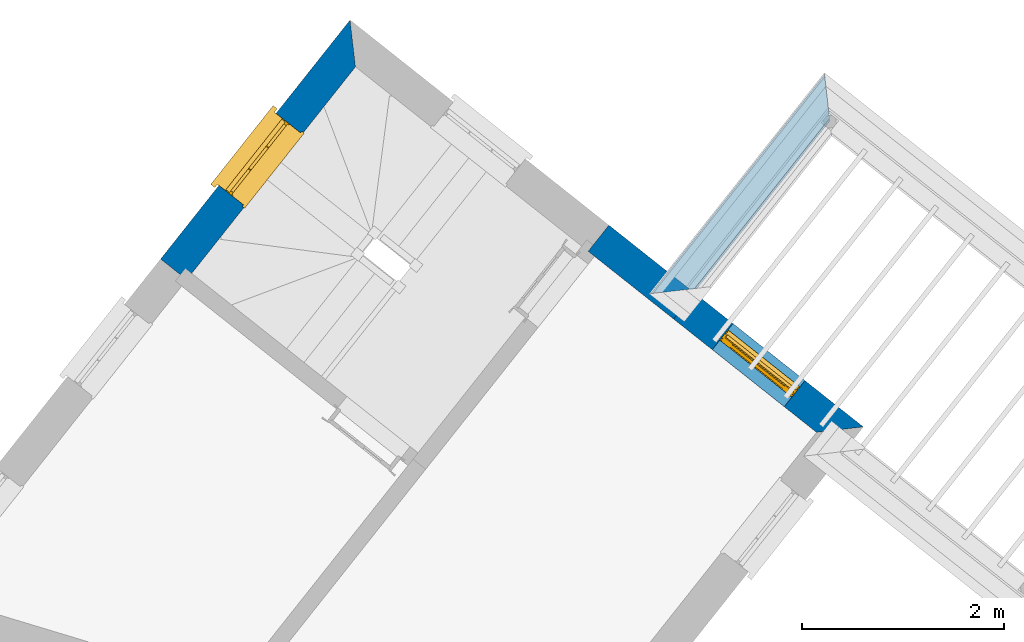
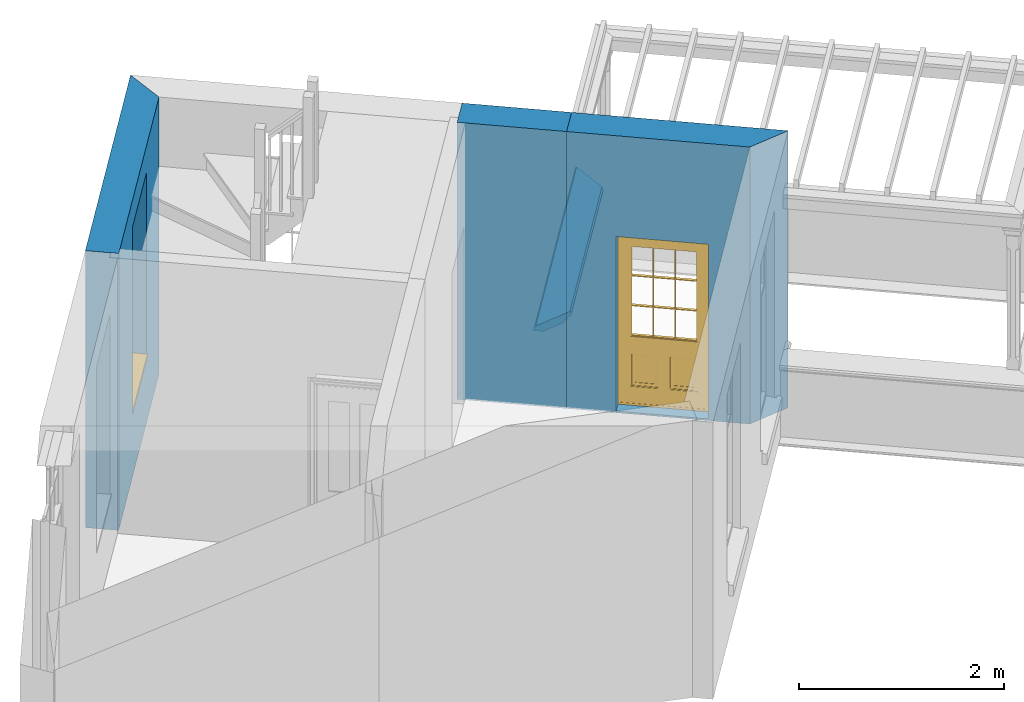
# One storey, part 3 of 6: 4 walls, 1 door, 1 window, 2 openings.
"""IFC4 building model written with IfcOpenShell, lengths in metres."""

from ifc_helpers import new_model, si_unit, frame, origin, origin_with_axes, place, context, subcontext, project, spatial, polyline, outline, extrude, clip, halfspace, faceted_brep, source, transform, mapped, material, layer, layer_set, layer_usage, material_profile, profile_set, profile_usage, type_object, type_shapes, element, fill, save


model = new_model("IFC4")

# Units and contexts
model_context = context("Model", 3, world=origin_with_axes())
body_context = subcontext(model_context, "Body", "Model", "MODEL_VIEW")
ifc_project = project(units=[si_unit("PLANEANGLEUNIT", "RADIAN"), si_unit("MASSUNIT", "GRAM", prefix="KILO"), si_unit("FORCEUNIT", "NEWTON", prefix="KILO"), si_unit("LENGTHUNIT", "METRE"), si_unit("AREAUNIT", "SQUARE_METRE"), si_unit("VOLUMEUNIT", "CUBIC_METRE")], contexts=[model_context, model_context])

# Sites, building, storey
site_1_placement = place(None, origin_with_axes())
site_1 = spatial("IfcSite", under=ifc_project, at=site_1_placement, Name="Tamar")
site_2_placement = place(site_1_placement, origin_with_axes())
site_2 = spatial("IfcSite", under=site_1, at=site_2_placement, Name="Site plot-5", CompositionType="ELEMENT")
building_placement = place(None, origin_with_axes())
building = spatial("IfcBuilding", under=site_2, at=building_placement, Name="Building plot-5", CompositionType="ELEMENT")
storey_placement = place(None, frame((0.0, 0.0, 26.85), z_axis=(0.0, 0.0, 1.0), x_axis=(1.0, 0.0, 0.0)))
storey = spatial("IfcBuildingStorey", under=building, at=storey_placement, Name="plot-5 1", CompositionType="ELEMENT", Elevation=26.85)

# Wall, opening, door
ifc_material = material(Name="Masonry")
ifc_layer = layer(ifc_material, 0.33, ventilated=False)
ifc_layer_set = layer_set([ifc_layer], Name="exterior_0.08_0.25")
ifc_layer_usage = layer_usage(ifc_layer_set, "AXIS2", "POSITIVE", -0.25)
wall_type_1 = type_object("IfcWallType", Name="exterior_0.08_0.25", PredefinedType="SOLIDWALL", material=ifc_layer_set)
wall_1_placement = place(storey_placement, frame((234.208321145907, 273.833509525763, 0.0), z_axis=(0.0, 0.0, 1.0), x_axis=(-0.783658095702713, 0.621192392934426, 0.0)))
wall_1 = element("IfcWall", 1, at=wall_1_placement, inside=storey, type_object=wall_type_1, material=ifc_layer_usage, Name="exterior", context=body_context, shape_type="SweptSolid", body=[
    extrude(outline(polyline([(0.0800000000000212, 0.0800000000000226), (-0.250000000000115, -0.250000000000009), (1.88701475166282, -0.250000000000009), (1.88701475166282, 0.0799999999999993), (0.0800000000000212, 0.0800000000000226)])), origin_with_axes(), (0.0, 0.0, 1.0), 3.3),
])
opening_1_placement = place(wall_1_placement, frame((0.488507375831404, 0.0, 0.0199999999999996)))
opening_1 = element("IfcOpeningElement", 2, at=opening_1_placement, cuts=wall_1, Name="My Opening", ObjectType="Opening", context=body_context, shape_type="SweptSolid", body=[
    extrude(outline(polyline([(0.0, -0.270000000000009), (0.910000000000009, -0.269999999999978), (0.910000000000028, 1.10000000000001), (1.89848137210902e-14, 1.09999999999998), (0.0, -0.270000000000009)])), origin_with_axes(), (0.0, 0.0, 1.0), 2.08),
])
door_type = type_object("IfcDoorType", Name="door_panelled", OperationType="SINGLE_SWING_LEFT", PredefinedType="NOTDEFINED")
shared_shape_1 = source(origin(), body_context, "Body", "Brep", [
    faceted_brep([(0.545, 0.195, 0.265), (0.745, 0.195, 0.265), (0.745, 0.2, 0.265), (0.545, 0.2, 0.265), (0.745, 0.2, 0.58), (0.545, 0.2, 0.58), (0.545, 0.195, 0.58), (0.515, 0.19, 0.235), (0.775, 0.19, 0.235), (0.745, 0.195, 0.58), (0.515, 0.19, 0.61), (0.515, 0.185, 0.235), (0.775, 0.185, 0.235), (0.775, 0.19, 0.61), (0.515, 0.185, 0.61), (0.785, 0.185, 0.225), (0.505, 0.185, 0.225), (0.775, 0.185, 0.61), (0.505, 0.185, 0.62), (0.785, 0.185, 0.62), (0.505, 0.18, 0.225), (0.785, 0.18, 0.225), (0.505, 0.18, 0.62), (0.785, 0.18, 0.62), (0.883, 0.18, 0.075), (0.898, 0.18, 0.075), (0.405, 0.18, 0.62), (0.405, 0.18, 0.225), (0.027, 0.18, 0.075), (0.785, 0.18, 0.82), (0.125, 0.18, 0.82), (0.405, 0.185, 0.62), (0.405, 0.185, 0.225), (0.898, 0.18, 2.068), (0.027, 0.17, 0.075), (0.883, 0.17, 0.075), (0.125, 0.18, 0.225), (0.012, 0.18, 0.075), (0.785, 0.19, 0.82), (0.125, 0.19, 0.82), (0.125, 0.18, 0.62), (0.125, 0.185, 0.62), (0.395, 0.185, 0.61), (0.395, 0.185, 0.235), (0.125, 0.185, 0.225), (0.785, 0.18, 1.895), (0.027, 0.14, 0.045), (0.883, 0.14, 0.045), (0.558333, 0.19, 0.83), (0.351667, 0.19, 0.83), (0.125, 0.18, 1.895), (0.125, 0.19, 1.895), (0.785, 0.19, 1.895), (0.012, 0.18, 2.068), (0.135, 0.185, 0.61), (0.395, 0.19, 0.61), (0.395, 0.19, 0.235), (0.135, 0.185, 0.235), (0.027, 0.14, 0.027), (0.883, 0.14, 0.027), (0.568333, 0.19, 0.83), (0.558333, 0.22, 0.83), (0.351667, 0.22, 0.83), (0.341667, 0.19, 0.83), (0.135, 0.19, 1.185), (0.135, 0.19, 1.53), (0.775, 0.19, 1.53), (0.775, 0.19, 1.185), (0.135, 0.19, 0.61), (0.365, 0.195, 0.58), (0.365, 0.195, 0.265), (0.135, 0.19, 0.235), (0.568333, 0.19, 1.175), (0.558333, 0.19, 1.175), (0.775, 0.19, 0.83), (0.558333, 0.22, 1.175), (0.785, 0.22, 0.82), (0.125, 0.22, 0.82), (0.351667, 0.22, 1.175), (0.351667, 0.19, 1.175), (0.341667, 0.19, 1.175), (0.135, 0.19, 0.83), (0.135, 0.19, 1.175), (0.135, 0.22, 1.185), (0.135, 0.22, 1.53), (0.135, 0.19, 1.54), (0.351667, 0.19, 1.885), (0.558333, 0.19, 1.885), (0.775, 0.22, 1.53), (0.775, 0.22, 1.185), (0.775, 0.19, 1.175), (0.775, 0.19, 1.54), (0.165, 0.195, 0.58), (0.365, 0.2, 0.58), (0.365, 0.2, 0.265), (0.165, 0.195, 0.265), (0.568333, 0.22, 0.83), (0.568333, 0.22, 1.175), (0.568333, 0.19, 1.185), (0.558333, 0.19, 1.185), (0.775, 0.22, 0.83), (0.785, 0.23, 0.82), (0.125, 0.23, 0.82), (0.341667, 0.22, 0.83), (0.341667, 0.22, 1.175), (0.351667, 0.19, 1.185), (0.341667, 0.19, 1.185), (0.135, 0.22, 0.83), (0.341667, 0.22, 1.185), (0.125, 0.22, 1.895), (0.341667, 0.22, 1.53), (0.341667, 0.19, 1.53), (0.135, 0.19, 1.885), (0.341667, 0.19, 1.54), (0.341667, 0.19, 1.885), (0.558333, 0.22, 1.885), (0.351667, 0.22, 1.885), (0.568333, 0.19, 1.885), (0.785, 0.22, 1.895), (0.568333, 0.22, 1.185), (0.568333, 0.19, 1.53), (0.568333, 0.22, 1.53), (0.568333, 0.19, 1.54), (0.775, 0.19, 1.885), (0.165, 0.2, 0.58), (0.165, 0.2, 0.265), (0.775, 0.22, 1.175), (0.558333, 0.19, 1.53), (0.351667, 0.22, 1.185), (0.558333, 0.22, 1.185), (0.505, 0.23, 0.62), (0.405, 0.23, 0.62), (0.125, 0.23, 1.895), (0.785, 0.23, 1.895), (0.351667, 0.19, 1.53), (0.135, 0.22, 1.175), (0.135, 0.22, 1.54), (0.341667, 0.22, 1.54), (0.135, 0.22, 1.885), (0.351667, 0.19, 1.54), (0.558333, 0.22, 1.54), (0.558333, 0.19, 1.54), (0.351667, 0.22, 1.54), (0.775, 0.22, 1.54), (0.568333, 0.22, 1.54), (0.775, 0.22, 1.885), (0.558333, 0.22, 1.53), (0.405, 0.23, 0.225), (0.505, 0.23, 0.225), (0.125, 0.23, 0.62), (0.785, 0.23, 0.62), (0.012, 0.23, 2.068), (0.898, 0.23, 2.068), (0.351667, 0.22, 1.53), (0.341667, 0.22, 1.885), (0.568333, 0.22, 1.885), (0.405, 0.225, 0.225), (0.405, 0.225, 0.62), (0.505, 0.225, 0.62), (0.505, 0.225, 0.225), (0.898, 0.23, 0.027), (0.012, 0.23, 0.027), (0.125, 0.225, 0.62), (0.785, 0.225, 0.62), (0.395, 0.225, 0.235), (0.395, 0.225, 0.61), (0.125, 0.23, 0.225), (0.125, 0.225, 0.225), (0.515, 0.225, 0.61), (0.515, 0.225, 0.235), (0.785, 0.23, 0.225), (0.785, 0.225, 0.225), (0.135, 0.225, 0.61), (0.775, 0.225, 0.61), (0.135, 0.225, 0.235), (0.395, 0.22, 0.235), (0.395, 0.22, 0.61), (0.515, 0.22, 0.61), (0.515, 0.22, 0.235), (0.775, 0.225, 0.235), (0.135, 0.22, 0.61), (0.775, 0.22, 0.61), (0.135, 0.22, 0.235), (0.365, 0.215, 0.265), (0.365, 0.215, 0.58), (0.545, 0.215, 0.58), (0.545, 0.215, 0.265), (0.775, 0.22, 0.235), (0.165, 0.215, 0.58), (0.745, 0.215, 0.58), (0.165, 0.215, 0.265), (0.365, 0.21, 0.58), (0.365, 0.21, 0.265), (0.545, 0.21, 0.58), (0.545, 0.21, 0.265), (0.745, 0.215, 0.265), (0.165, 0.21, 0.58), (0.745, 0.21, 0.58), (0.165, 0.21, 0.265), (0.745, 0.21, 0.265), (0.885, 0.178, 0.025), (0.025, 0.178, 0.025), (0.025, 0.15, 0.025), (0.885, 0.15, 0.025), (0.9, 0.23, 0.025), (0.01, 0.23, 0.025), (0.9, 0.178, 0.025), (0.91, 0.23, 0.0), (0.0, 0.23, 0.0), (0.01, 0.178, 0.025), (0.9, 0.178, 2.07), (0.9, 0.23, 2.07), (0.885, 0.178, 2.055), (0.91, 0.23, 2.08), (0.01, 0.23, 2.07), (0.0, 0.23, 2.08), (0.01, 0.178, 2.07), (0.025, 0.178, 2.055), (0.0, 0.1, 2.08), (0.91, 0.1, 2.08), (0.01, 0.1, 2.07), (0.9, 0.1, 2.07), (0.01, 0.15, 2.07), (0.9, 0.15, 2.07), (0.0, 0.1, 0.0), (0.91, 0.1, 0.0), (0.01, 0.1, 0.025), (0.9, 0.1, 0.025), (0.01, 0.15, 0.025), (0.025, 0.15, 2.055), (0.9, 0.15, 0.025), (0.885, 0.15, 2.055), (0.898, 0.18, 0.027), (0.012, 0.18, 0.027), (0.883, 0.18, 0.027), (0.027, 0.18, 0.027)], [[[0, 1, 2, 3]], [[2, 4, 5, 3]], [[0, 3, 5, 6]], [[1, 0, 7, 8]], [[9, 4, 2, 1]], [[9, 6, 5, 4]], [[0, 6, 10, 7]], [[8, 7, 11, 12]], [[8, 13, 9, 1]], [[13, 10, 6, 9]], [[7, 10, 14, 11]], [[15, 12, 11, 16]], [[12, 17, 13, 8]], [[17, 14, 10, 13]], [[18, 16, 11, 14]], [[15, 19, 17, 12]], [[15, 16, 20, 21]], [[14, 17, 19, 18]], [[16, 18, 22, 20]], [[21, 23, 19, 15]], [[24, 25, 21, 20]], [[23, 22, 18, 19]], [[20, 22, 26, 27]], [[23, 21, 25]], [[28, 24, 20, 27]], [[22, 23, 29]], [[29, 30, 26, 22]], [[27, 26, 31, 32]], [[23, 25, 33, 29]], [[34, 35, 24, 28]], [[28, 27, 36, 37]], [[38, 39, 30, 29]], [[26, 30, 40]], [[26, 40, 41, 31]], [[42, 43, 32, 31]], [[32, 44, 36, 27]], [[33, 45, 29]], [[46, 47, 35, 34]], [[36, 40, 37]], [[39, 38, 48, 49]], [[50, 30, 39, 51]], [[29, 45, 52, 38]], [[53, 37, 40, 30]], [[44, 41, 40, 36]], [[31, 41, 54, 42]], [[43, 42, 55, 56]], [[57, 44, 32, 43]], [[50, 45, 33, 53]], [[47, 46, 58, 59]], [[60, 48, 38]], [[49, 48, 61, 62]], [[49, 63, 39]], [[50, 53, 30]], [[51, 39, 64, 65]], [[45, 50, 51, 52]], [[66, 67, 38, 52]], [[57, 54, 41, 44]], [[42, 54, 68, 55]], [[56, 55, 69, 70]], [[56, 71, 57, 43]], [[60, 72, 73, 48]], [[60, 38, 74]], [[48, 73, 75, 61]], [[76, 77, 62, 61]], [[62, 78, 79, 49]], [[49, 79, 80, 63]], [[63, 81, 39]], [[82, 64, 39]], [[65, 64, 83, 84]], [[85, 51, 65]], [[52, 51, 86, 87]], [[88, 89, 67, 66]], [[90, 38, 67]], [[91, 66, 52]], [[71, 68, 54, 57]], [[55, 68, 92, 69]], [[69, 93, 94, 70]], [[70, 95, 71, 56]], [[96, 97, 72, 60]], [[73, 72, 98, 99]], [[74, 38, 90]], [[100, 96, 60, 74]], [[75, 73, 79, 78]], [[61, 75, 97, 96]], [[101, 102, 77, 76]], [[77, 103, 62]], [[96, 76, 61]], [[103, 104, 78, 62]], [[80, 79, 105, 106]], [[63, 80, 104, 103]], [[81, 63, 103, 107]], [[81, 82, 39]], [[106, 64, 82, 80]], [[106, 108, 83, 64]], [[84, 83, 77, 109]], [[110, 111, 65, 84]], [[112, 51, 85]], [[113, 85, 65, 111]], [[114, 86, 51]], [[115, 87, 86, 116]], [[117, 52, 87]], [[118, 76, 89, 88]], [[119, 98, 67, 89]], [[120, 121, 88, 66]], [[67, 98, 72, 90]], [[91, 122, 120, 66]], [[91, 52, 123]], [[95, 92, 68, 71]], [[69, 92, 124, 93]], [[94, 93, 124, 125]], [[94, 125, 95, 70]], [[72, 97, 126, 90]], [[127, 99, 98, 120]], [[99, 105, 79, 73]], [[74, 90, 126, 100]], [[96, 100, 76]], [[128, 129, 75, 78]], [[97, 75, 129, 119]], [[130, 131, 102, 101]], [[109, 77, 102, 132]], [[133, 101, 76, 118]], [[77, 107, 103]], [[78, 104, 108, 128]], [[111, 106, 105, 134]], [[104, 80, 82, 135]], [[107, 135, 82, 81]], [[110, 108, 106, 111]], [[104, 135, 83, 108]], [[83, 135, 77]], [[136, 84, 109]], [[110, 84, 136, 137]], [[114, 51, 112]], [[85, 136, 138, 112]], [[113, 137, 136, 85]], [[111, 134, 139, 113]], [[86, 114, 113, 139]], [[140, 141, 87, 115]], [[139, 142, 116, 86]], [[109, 118, 115, 116]], [[117, 123, 52]], [[117, 87, 141, 122]], [[126, 89, 76]], [[143, 118, 88]], [[120, 98, 119, 121]], [[119, 89, 126, 97]], [[144, 143, 88, 121]], [[144, 122, 91, 143]], [[127, 120, 122, 141]], [[143, 91, 123, 145]], [[124, 92, 95, 125]], [[146, 129, 99, 127]], [[99, 129, 128, 105]], [[100, 126, 76]], [[121, 119, 129, 146]], [[147, 131, 130, 148]], [[131, 149, 102]], [[130, 101, 150]], [[102, 151, 132]], [[118, 109, 132, 133]], [[101, 133, 152]], [[107, 77, 135]], [[153, 128, 108, 110]], [[134, 105, 128, 153]], [[109, 138, 136]], [[153, 110, 137, 142]], [[154, 114, 112, 138]], [[137, 113, 114, 154]], [[141, 139, 134, 127]], [[141, 140, 142, 139]], [[144, 140, 115, 155]], [[142, 137, 154, 116]], [[155, 115, 118]], [[116, 154, 109]], [[117, 155, 145, 123]], [[122, 144, 155, 117]], [[143, 145, 118]], [[121, 146, 140, 144]], [[146, 127, 134, 153]], [[156, 157, 131, 147]], [[148, 130, 158, 159]], [[148, 160, 161, 147]], [[157, 162, 149, 131]], [[161, 151, 102, 149]], [[101, 152, 160, 150]], [[163, 158, 130, 150]], [[151, 152, 133, 132]], [[154, 138, 109]], [[142, 140, 146, 153]], [[145, 155, 118]], [[157, 156, 164, 165]], [[147, 166, 167, 156]], [[168, 169, 159, 158]], [[170, 148, 159, 171]], [[148, 170, 160]], [[166, 147, 161]], [[172, 162, 157, 165]], [[166, 149, 162, 167]], [[166, 161, 149]], [[150, 160, 170]], [[163, 173, 168, 158]], [[171, 163, 150, 170]], [[174, 164, 156, 167]], [[175, 176, 165, 164]], [[169, 168, 177, 178]], [[171, 159, 169, 179]], [[167, 162, 172, 174]], [[176, 180, 172, 165]], [[179, 173, 163, 171]], [[181, 177, 168, 173]], [[164, 174, 182, 175]], [[183, 184, 176, 175]], [[178, 177, 185, 186]], [[179, 169, 178, 187]], [[174, 172, 180, 182]], [[184, 188, 180, 176]], [[187, 181, 173, 179]], [[189, 185, 177, 181]], [[175, 182, 190, 183]], [[191, 184, 183, 192]], [[185, 193, 194, 186]], [[187, 178, 186, 195]], [[182, 180, 188, 190]], [[191, 196, 188, 184]], [[195, 189, 181, 187]], [[197, 193, 185, 189]], [[183, 190, 198, 192]], [[198, 196, 191, 192]], [[194, 193, 197, 199]], [[195, 186, 194, 199]], [[188, 196, 198, 190]], [[197, 189, 195, 199]], [[200, 201, 202, 203]], [[201, 200, 204, 205]], [[206, 204, 200]], [[204, 207, 208, 205]], [[209, 201, 205]], [[210, 211, 204, 206]], [[206, 200, 212, 210]], [[211, 213, 207, 204]], [[214, 205, 208, 215]], [[216, 217, 201, 209]], [[205, 214, 216, 209]], [[216, 214, 211, 210]], [[210, 212, 217, 216]], [[214, 215, 213, 211]], [[218, 219, 213, 215]], [[219, 218, 220, 221]], [[221, 220, 222, 223]], [[215, 208, 224, 218]], [[225, 224, 208, 207]], [[224, 226, 220, 218]], [[224, 225, 227, 226]], [[219, 225, 207, 213]], [[228, 222, 220, 226]], [[219, 221, 227, 225]], [[226, 227, 203, 202]], [[202, 229, 222, 228]], [[228, 226, 202]], [[227, 221, 223, 230]], [[230, 203, 227]], [[217, 229, 202, 201]], [[231, 223, 222, 229]], [[230, 223, 231, 203]], [[231, 229, 217, 212]], [[212, 200, 203, 231]], [[33, 152, 151, 53]], [[25, 160, 152, 33]], [[161, 37, 53, 151]], [[232, 160, 25]], [[161, 233, 37]], [[160, 232, 234]], [[24, 234, 232, 25]], [[233, 161, 235]], [[37, 233, 235, 28]], [[161, 160, 234, 235]], [[35, 47, 234, 24]], [[28, 235, 46, 34]], [[58, 235, 234, 59]], [[59, 234, 47]], [[58, 46, 235]]]),
])
type_shapes(door_type, [shared_shape_1])
door_placement = place(storey_placement, frame((233.993220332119, 274.348554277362, 0.0199999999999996), z_axis=(0.0, 0.0, 1.0), x_axis=(-0.713128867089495, 0.565285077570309, 0.0)))
door = element("IfcDoor", 3, at=door_placement, inside=storey, type_object=door_type, Name="bedroom outside door", OverallHeight=2.08, OverallWidth=0.91, context=body_context, shape_type="MappedRepresentation", body=[
    mapped(shared_shape_1, transform((0.0, 0.0, 0.0), scale=1.0)),
])
fill(opening_1, door)

# Wall
wall_2_placement = place(storey_placement, frame((232.729546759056, 275.005708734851, 0.0), z_axis=(0.0, 0.0, 1.0), x_axis=(-0.783658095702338, 0.621192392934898, 0.0)))
element("IfcWall", 4, at=wall_2_placement, inside=storey, type_object=wall_type_1, material=ifc_layer_usage, Name="exterior", context=body_context, shape_type="SweptSolid", body=[
    extrude(outline(polyline([(-3.13300360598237e-14, 0.0799999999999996), (1.64994449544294e-13, -0.250000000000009), (1.07977793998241, -0.249999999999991), (1.07977793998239, 0.0800000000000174), (-3.13300360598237e-14, 0.0799999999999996)])), origin_with_axes(), (0.0, 0.0, 1.0), 3.3),
])

# Wall, opening, window
wall_3_placement = place(storey_placement, frame((229.516474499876, 277.552656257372, 0.0), z_axis=(0.0, 0.0, 1.0), x_axis=(-0.621192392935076, -0.783658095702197, 0.0)))
wall_3 = element("IfcWall", 5, at=wall_3_placement, inside=storey, type_object=wall_type_1, material=ifc_layer_usage, Name="exterior", context=body_context, shape_type="SweptSolid", body=[
    extrude(outline(polyline([(0.0799999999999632, 0.0799999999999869), (-0.249999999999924, -0.250000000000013), (2.77068773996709, -0.249999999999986), (2.77068773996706, 0.0799999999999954), (0.0799999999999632, 0.0799999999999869)])), origin_with_axes(), (0.0, 0.0, 1.0), 3.3),
])
opening_2_placement = place(wall_3_placement, frame((0.930343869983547, 0.0, 0.75)))
opening_2 = element("IfcOpeningElement", 6, at=opening_2_placement, cuts=wall_3, Name="My Opening", ObjectType="Opening", context=body_context, shape_type="SweptSolid", body=[
    extrude(outline(polyline([(0.0, -0.269999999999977), (0.909999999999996, -0.269999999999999), (0.909999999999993, 1.1), (-3.99680288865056e-15, 1.10000000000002), (0.0, -0.269999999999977)])), origin_with_axes(), (0.0, 0.0, 1.0), 2.23),
])
window_type = type_object("IfcWindowType", Name="sash_big_taller", PartitioningType="DOUBLE_PANEL_HORIZONTAL", PredefinedType="NOTDEFINED")
shared_shape_2 = source(origin(), body_context, "Body", "Brep", [
    faceted_brep([(0.033125, 0.145, 1.385209), (0.01, 0.145, 1.385209), (0.033125, 0.145, 1.786042), (0.876875, 0.145, 1.385209), (0.876875, 0.145, 1.786042), (0.9, 0.145, 1.385209), (0.876875, 0.145, 1.796042), (0.876875, 0.145, 2.196875), (0.9, 0.145, 2.22), (0.033125, 0.145, 2.196875), (0.033125, 0.145, 1.796042), (0.01, 0.145, 2.22), (0.876875, 0.115, 1.786042), (0.876875, 0.115, 1.385209), (0.9, 0.115, 1.347084), (0.033125, 0.115, 2.196875), (0.01, 0.115, 2.22), (0.033125, 0.115, 1.796042), (0.01, 0.115, 1.347084), (0.033125, 0.115, 1.385209), (0.033125, 0.115, 1.786042), (0.876875, 0.115, 2.196875), (0.876875, 0.115, 1.796042), (0.9, 0.115, 2.22), (0.033125, 0.145, 1.347084), (0.01, 0.145, 1.347084), (0.033125, 0.145, 0.94625), (0.876875, 0.145, 1.347084), (0.876875, 0.145, 0.94625), (0.9, 0.145, 1.347084), (0.876875, 0.145, 0.52625), (0.876875, 0.145, 0.125417), (0.9, 0.145, 0.077167), (0.033125, 0.145, 0.125417), (0.033125, 0.145, 0.52625), (0.01, 0.145, 0.077167), (-0.0425, 0.0, 0.01), (-0.0425, -0.05, 0.001667), (0.0, 0.0, 0.01), (0.9525, 0.0, 0.01), (0.91, 0.0, 0.01), (0.9525, -0.05, 0.001667), (-0.02, 0.33, 0.077167), (0.0, 0.33, 0.077167), (-0.02, 0.36, 0.077167), (0.0, 0.19, 0.077167), (0.01, 0.19, 0.077167), (0.91, 0.19, 0.077167), (0.91, 0.33, 0.077167), (0.9, 0.19, 0.077167), (0.93, 0.33, 0.077167), (0.93, 0.36, 0.077167), (0.01, 0.175, 1.385209), (0.9, 0.175, 1.385209), (0.876875, 0.175, 0.125417), (0.876875, 0.175, 0.52625), (0.9, 0.175, 0.077167), (0.876875, 0.175, 0.94625), (0.876875, 0.175, 1.347084), (0.033125, 0.175, 0.125417), (0.01, 0.175, 0.077167), (0.033125, 0.175, 0.52625), (0.033125, 0.175, 1.347084), (0.033125, 0.175, 0.94625), (-0.02, 0.33, 0.052167), (-0.02, 0.36, 0.052167), (0.93, 0.36, 0.052167), (0.93, 0.33, 0.052167), (0.91, 0.33, 0.052167), (0.0, 0.33, 0.052167), (0.91, 0.1, 0.026667), (0.0, 0.1, 0.026667), (-0.0425, -0.05, -0.123333), (0.9525, -0.05, -0.123333), (-0.0425, 0.0, -0.123333), (0.9525, 0.0, -0.123333), (0.01, 0.19, 2.22), (0.9, 0.19, 2.22), (0.0, 0.19, 2.23), (0.91, 0.19, 2.23), (0.01, 0.1, 0.077167), (0.9, 0.1, 0.077167), (0.592292, 0.145, 0.125417), (0.592292, 0.175, 0.125417), (0.317708, 0.175, 0.125417), (0.317708, 0.145, 0.125417), (0.592292, 0.145, 0.53625), (0.317708, 0.145, 0.53625), (0.317708, 0.145, 0.52625), (0.592292, 0.145, 0.52625), (0.592292, 0.175, 0.53625), (0.317708, 0.175, 0.53625), (0.592292, 0.115, 1.796042), (0.592292, 0.145, 1.796042), (0.317708, 0.145, 1.796042), (0.317708, 0.115, 1.796042), (0.317708, 0.115, 1.786042), (0.592292, 0.115, 1.786042), (0.317708, 0.145, 1.786042), (0.592292, 0.145, 1.786042), (0.602292, 0.115, 1.786042), (0.592292, 0.115, 1.385209), (0.602292, 0.115, 1.385209), (0.602292, 0.145, 1.385209), (0.592292, 0.145, 1.385209), (0.602292, 0.145, 1.786042), (0.876875, 0.145, 0.53625), (0.876875, 0.175, 0.53625), (0.602292, 0.175, 0.53625), (0.602292, 0.145, 0.53625), (0.317708, 0.175, 0.52625), (0.307708, 0.175, 0.125417), (0.307708, 0.175, 0.52625), (0.602292, 0.175, 0.52625), (0.602292, 0.175, 0.125417), (0.592292, 0.175, 0.52625), (0.307708, 0.175, 0.53625), (0.033125, 0.175, 0.53625), (0.317708, 0.175, 1.347084), (0.317708, 0.175, 0.94625), (0.307708, 0.175, 0.94625), (0.307708, 0.175, 1.347084), (0.602292, 0.175, 1.347084), (0.602292, 0.175, 0.94625), (0.592292, 0.175, 0.94625), (0.592292, 0.175, 1.347084), (0.307708, 0.145, 0.52625), (0.307708, 0.145, 0.125417), (0.307708, 0.145, 0.53625), (0.033125, 0.145, 0.53625), (0.307708, 0.145, 1.347084), (0.307708, 0.145, 0.94625), (0.592292, 0.145, 1.347084), (0.592292, 0.145, 0.94625), (0.317708, 0.145, 0.94625), (0.317708, 0.145, 1.347084), (0.602292, 0.145, 0.94625), (0.602292, 0.145, 1.347084), (0.602292, 0.145, 0.52625), (0.602292, 0.145, 0.125417), (0.307708, 0.115, 1.796042), (0.307708, 0.115, 1.786042), (0.307708, 0.115, 1.385209), (0.317708, 0.115, 1.385209), (0.317708, 0.115, 2.196875), (0.307708, 0.115, 2.196875), (0.602292, 0.115, 2.196875), (0.592292, 0.115, 2.196875), (0.602292, 0.115, 1.796042), (0.602292, 0.145, 1.796042), (0.307708, 0.145, 1.796042), (0.307708, 0.145, 2.196875), (0.317708, 0.145, 2.196875), (0.592292, 0.145, 2.196875), (0.602292, 0.145, 2.196875), (0.307708, 0.145, 1.786042), (0.317708, 0.145, 1.385209), (0.307708, 0.145, 1.385209), (0.876875, 0.175, 0.93625), (0.033125, 0.175, 0.93625), (0.033125, 0.145, 0.93625), (0.876875, 0.145, 0.93625), (0.91, 0.1, 2.23), (0.9, 0.1, 2.22), (0.01, 0.1, 2.22), (0.0, 0.1, 2.23), (0.91, 0.0, 0.0), (0.0, 0.0, 0.0), (0.91, 0.33, 0.0), (0.0, 0.33, 0.0), (0.317708, 0.145, 0.93625), (0.592292, 0.145, 0.93625), (0.317708, 0.175, 0.93625), (0.307708, 0.175, 0.93625), (0.602292, 0.175, 0.93625), (0.592292, 0.175, 0.93625), (0.307708, 0.145, 0.93625), (0.602292, 0.145, 0.93625)], [[[0, 1, 2]], [[3, 4, 5]], [[6, 7, 8]], [[9, 10, 11]], [[12, 13, 14]], [[15, 16, 17]], [[18, 19, 20]], [[21, 22, 23]], [[24, 25, 26]], [[27, 28, 29]], [[30, 31, 32]], [[33, 34, 35]], [[14, 27, 29]], [[25, 24, 18]], [[36, 37, 38]], [[39, 40, 41]], [[42, 43, 44]], [[45, 46, 43]], [[47, 48, 49]], [[50, 51, 48]], [[1, 0, 52]], [[5, 53, 3]], [[54, 55, 56]], [[57, 58, 53]], [[59, 60, 61]], [[62, 63, 52]], [[48, 43, 46, 49]], [[51, 44, 43, 48]], [[64, 42, 44, 65]], [[65, 44, 51, 66]], [[66, 51, 50, 67]], [[65, 66, 68, 69]], [[60, 56, 49, 46]], [[70, 71, 38, 40]], [[37, 41, 40, 38]], [[37, 72, 73, 41]], [[74, 75, 73, 72]], [[8, 11, 76, 77]], [[76, 78, 79, 77]], [[32, 35, 80, 81]], [[81, 80, 71, 70]], [[82, 83, 84, 85]], [[86, 87, 88, 89]], [[86, 90, 91, 87]], [[92, 93, 94, 95]], [[92, 95, 96, 97]], [[96, 98, 99, 97]], [[100, 97, 101, 102]], [[103, 104, 99, 105]], [[97, 99, 104, 101]], [[102, 103, 105, 100]], [[106, 107, 108, 109]], [[110, 84, 111, 112]], [[113, 114, 83, 115]], [[116, 112, 61, 117]], [[90, 115, 110, 91]], [[118, 119, 120, 121]], [[122, 123, 124, 125]], [[113, 108, 107, 55]], [[126, 112, 111, 127]], [[34, 61, 112, 126]], [[89, 115, 83, 82]], [[88, 110, 115, 89]], [[85, 84, 110, 88]], [[128, 116, 117, 129]], [[130, 121, 120, 131]], [[132, 125, 124, 133]], [[134, 119, 118, 135]], [[136, 123, 122, 137]], [[138, 113, 55, 30]], [[139, 114, 113, 138]], [[138, 30, 106, 109]], [[88, 126, 127, 85]], [[138, 89, 82, 139]], [[137, 132, 133, 136]], [[128, 129, 34, 126]], [[135, 130, 131, 134]], [[140, 17, 20, 141]], [[96, 141, 142, 143]], [[144, 145, 140, 95]], [[146, 147, 92, 148]], [[100, 12, 22, 148]], [[149, 6, 4, 105]], [[94, 150, 151, 152]], [[149, 93, 153, 154]], [[99, 98, 94, 93]], [[155, 2, 10, 150]], [[156, 157, 155, 98]], [[141, 155, 157, 142]], [[20, 2, 155, 141]], [[143, 156, 98, 96]], [[140, 150, 10, 17]], [[145, 151, 150, 140]], [[147, 153, 93, 92]], [[95, 94, 152, 144]], [[22, 6, 149, 148]], [[148, 149, 154, 146]], [[100, 105, 4, 12]], [[109, 86, 89, 138]], [[108, 113, 115, 90]], [[91, 110, 112, 116]], [[87, 128, 126, 88]], [[97, 100, 148, 92]], [[141, 96, 95, 140]], [[98, 155, 150, 94]], [[105, 99, 93, 149]], [[143, 101, 104, 156]], [[135, 118, 125, 132]], [[144, 152, 153, 147]], [[127, 111, 59, 33]], [[15, 9, 151, 145]], [[146, 154, 7, 21]], [[31, 54, 114, 139]], [[36, 74, 72, 37]], [[39, 41, 73, 75]], [[18, 14, 101, 143]], [[23, 16, 144, 147]], [[83, 56, 60, 84]], [[52, 53, 125, 118]], [[53, 52, 156, 104]], [[11, 8, 153, 152]], [[14, 18, 135, 132]], [[2, 1, 11, 10]], [[8, 5, 4, 6]], [[57, 53, 56, 158]], [[60, 52, 63, 159]], [[26, 25, 35, 160]], [[32, 29, 28, 161]], [[14, 23, 22, 12]], [[18, 20, 17, 16]], [[19, 0, 2, 20]], [[17, 10, 9, 15]], [[12, 4, 3, 13]], [[21, 7, 6, 22]], [[27, 58, 57, 28]], [[30, 55, 54, 31]], [[33, 59, 61, 34]], [[26, 63, 62, 24]], [[5, 8, 77, 53]], [[76, 11, 1, 52]], [[46, 45, 78, 76]], [[49, 77, 79, 47]], [[70, 162, 163, 81]], [[71, 80, 164, 165]], [[19, 142, 157, 0]], [[102, 13, 3, 103]], [[121, 130, 24, 62]], [[29, 32, 81, 14]], [[80, 35, 25, 18]], [[60, 46, 76, 52]], [[77, 49, 56, 53]], [[23, 14, 81, 163]], [[16, 164, 80, 18]], [[35, 85, 127]], [[127, 33, 35]], [[139, 82, 32]], [[32, 31, 139]], [[32, 82, 85, 35]], [[102, 101, 14]], [[14, 13, 102]], [[18, 143, 142]], [[142, 19, 18]], [[146, 21, 23]], [[23, 147, 146]], [[16, 15, 145]], [[145, 144, 16]], [[11, 152, 151]], [[151, 9, 11]], [[154, 153, 8]], [[8, 7, 154]], [[23, 163, 164, 16]], [[162, 165, 164, 163]], [[52, 118, 121]], [[121, 62, 52]], [[125, 53, 122]], [[58, 122, 53]], [[27, 137, 122, 58]], [[56, 83, 114]], [[114, 54, 56]], [[111, 84, 60]], [[60, 59, 111]], [[137, 27, 14]], [[14, 132, 137]], [[130, 135, 18]], [[18, 24, 130]], [[157, 156, 52]], [[52, 0, 157]], [[103, 3, 53]], [[53, 104, 103]], [[79, 78, 165, 162]], [[78, 45, 71, 165]], [[162, 70, 47, 79]], [[166, 75, 74, 167]], [[68, 66, 67]], [[48, 68, 67, 50]], [[69, 64, 65]], [[42, 64, 69, 43]], [[69, 68, 168, 169]], [[70, 68, 48, 47]], [[166, 168, 68, 70]], [[43, 69, 71, 45]], [[69, 169, 167, 71]], [[168, 166, 167, 169]], [[38, 167, 74, 36]], [[71, 167, 38]], [[39, 75, 166, 40]], [[40, 166, 70]], [[133, 134, 170, 171]], [[133, 124, 119, 134]], [[28, 57, 123, 136]], [[172, 91, 116, 173]], [[174, 108, 90, 175]], [[120, 173, 159, 63]], [[124, 175, 172, 119]], [[174, 123, 57, 158]], [[176, 173, 116, 128]], [[160, 159, 173, 176]], [[171, 175, 90, 86]], [[170, 172, 175, 171]], [[87, 91, 172, 170]], [[131, 120, 63, 26]], [[177, 174, 158, 161]], [[109, 108, 174, 177]], [[177, 161, 28, 136]], [[170, 176, 128, 87]], [[177, 171, 86, 109]], [[131, 26, 160, 176]], [[136, 133, 171, 177]], [[123, 174, 175, 124]], [[119, 172, 173, 120]], [[134, 131, 176, 170]], [[129, 117, 159, 160]], [[161, 158, 107, 106]], [[35, 34, 129]], [[35, 129, 160]], [[32, 106, 30]], [[32, 161, 106]], [[56, 55, 107]], [[56, 107, 158]], [[60, 117, 61]], [[60, 159, 117]]]),
])
type_shapes(window_type, [shared_shape_2])
window_placement = place(storey_placement, frame((228.726964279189, 276.991306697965, 0.75), z_axis=(0.0, 0.0, 1.0), x_axis=(-0.565285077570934, -0.713128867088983, 0.0)))
window = element("IfcWindow", 7, at=window_placement, inside=storey, type_object=window_type, Name="circulation outside window", OverallHeight=2.23, OverallWidth=0.91, context=body_context, shape_type="MappedRepresentation", body=[
    mapped(shared_shape_2, transform((0.0, 0.0, 0.0), scale=1.0)),
])
fill(opening_2, window)

# Wall
ifc_material_profile = material_profile(None, outline(polyline([(0.265, 0.795), (0.268, 0.807), (0.274, 0.816), (0.283, 0.822), (0.295, 0.825), (0.295, 0.84), (0.305, 0.84), (0.317, 0.842), (0.326, 0.849), (0.333, 0.858), (0.335, 0.87), (0.333, 0.882), (0.326, 0.891), (0.317, 0.898), (0.305, 0.9), (0.035, 0.9), (0.023, 0.898), (0.014, 0.891), (0.007, 0.882), (0.005, 0.87), (0.007, 0.858), (0.014, 0.849), (0.023, 0.842), (0.035, 0.84), (0.045, 0.84), (0.045, 0.825), (0.057, 0.822), (0.066, 0.816), (0.072, 0.807), (0.075, 0.795), (0.265, 0.795)])))
ifc_profile_set = profile_set([ifc_material_profile])
ifc_profile_usage = profile_usage(ifc_profile_set)
wall_type_2 = type_object("IfcWallType", Name="parapet_1", PredefinedType="PARAPET", material=ifc_profile_set)
wall_4_placement = place(storey_placement, frame((232.300924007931, 274.464984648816, 0.0), z_axis=(0.621192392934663, 0.783658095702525, 0.0), x_axis=(-0.783658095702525, 0.621192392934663, 0.0)))
element("IfcWall", 8, at=wall_4_placement, inside=storey, type_object=wall_type_2, material=ifc_profile_usage, Name="parapet_1", context=body_context, shape_type="Clipping", body=[
    clip(clip(extrude(outline(polyline([(0.265, 0.795), (0.268, 0.807), (0.274, 0.816), (0.283, 0.822), (0.295, 0.825), (0.295, 0.84), (0.305, 0.84), (0.317, 0.842), (0.326, 0.849), (0.333, 0.858), (0.335, 0.87), (0.333, 0.882), (0.326, 0.891), (0.317, 0.898), (0.305, 0.9), (0.035, 0.9), (0.023, 0.898), (0.014, 0.891), (0.007, 0.882), (0.005, 0.87), (0.007, 0.858), (0.014, 0.849), (0.023, 0.842), (0.035, 0.84), (0.045, 0.84), (0.045, 0.825), (0.057, 0.822), (0.066, 0.816), (0.072, 0.807), (0.075, 0.795), (0.265, 0.795)])), origin_with_axes(), (0.0, 0.0, 1.0), 4.10263567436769), halfspace(frame((0.0, 0.0, 3.10263567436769), z_axis=(0.707106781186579, 0.0, -0.707106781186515), x_axis=(0.0, 1.0, 0.0)), True)), halfspace(frame((0.0, 0.0, 1.0), z_axis=(-0.707106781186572, 0.0, -0.707106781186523), x_axis=(0.0, 1.0, 0.0)), False)),
])

save(model, "model.ifc")
